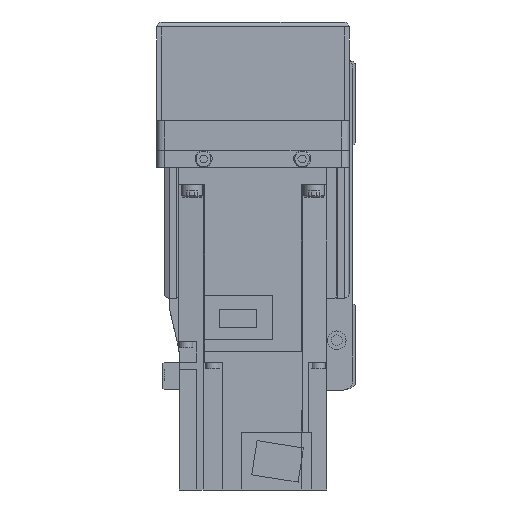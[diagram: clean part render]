
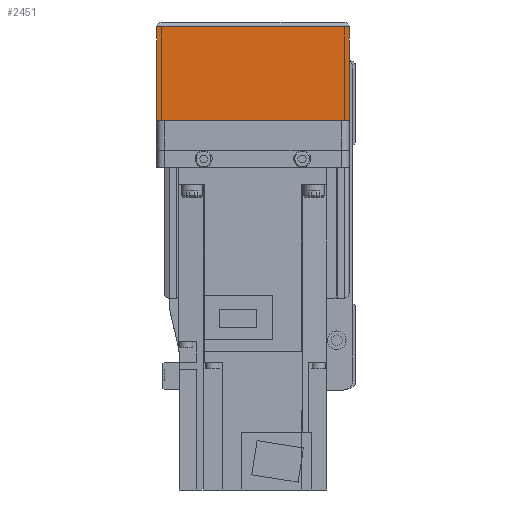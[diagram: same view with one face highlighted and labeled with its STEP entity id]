
A CAD part, left-side view. The second image highlights one B-rep face of the part: STEP entity #2451.
In plain terms, the highlighted planar face has unit normal (-1, 0, 0).
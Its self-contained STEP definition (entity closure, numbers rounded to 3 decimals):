
#2451 = ADVANCED_FACE( '', ( #5454 ), #5455, .F. );
#5454 = FACE_OUTER_BOUND( '', #9009, .T. );
#5455 = PLANE( '', #9010 );
#9009 = EDGE_LOOP( '', ( #16037, #16038, #16039, #16040 ) );
#9010 = AXIS2_PLACEMENT_3D( '', #16041, #16042, #16043 );
#16037 = ORIENTED_EDGE( '', *, *, #22611, .F. );
#16038 = ORIENTED_EDGE( '', *, *, #22348, .F. );
#16039 = ORIENTED_EDGE( '', *, *, #22369, .T. );
#16040 = ORIENTED_EDGE( '', *, *, #22612, .F. );
#16041 = CARTESIAN_POINT( '', ( -158., 36., 7. ) );
#16042 = DIRECTION( '', ( 1., 0., 0. ) );
#16043 = DIRECTION( '', ( 0., 0., -1. ) );
#22348 = EDGE_CURVE( '', #26156, #27506, #27507, .T. );
#22369 = EDGE_CURVE( '', #26156, #24236, #27533, .T. );
#22611 = EDGE_CURVE( '', #27506, #27838, #27849, .T. );
#22612 = EDGE_CURVE( '', #27838, #24236, #27850, .T. );
#24236 = VERTEX_POINT( '', #30020 );
#26156 = VERTEX_POINT( '', #33216 );
#27506 = VERTEX_POINT( '', #35338 );
#27507 = LINE( '', #35339, #35340 );
#27533 = LINE( '', #35377, #35378 );
#27838 = VERTEX_POINT( '', #35800 );
#27849 = LINE( '', #35817, #35818 );
#27850 = LINE( '', #35819, #35820 );
#30020 = CARTESIAN_POINT( '', ( -158., -39., -50. ) );
#33216 = CARTESIAN_POINT( '', ( -158., 39., -50. ) );
#35338 = CARTESIAN_POINT( '', ( -158., 39., -12.1 ) );
#35339 = CARTESIAN_POINT( '', ( -158., 39., -50. ) );
#35340 = VECTOR( '', #40326, 1000. );
#35377 = CARTESIAN_POINT( '', ( -158., 40., -50. ) );
#35378 = VECTOR( '', #40344, 1000. );
#35800 = CARTESIAN_POINT( '', ( -158., -39., -12.1 ) );
#35817 = CARTESIAN_POINT( '', ( -158., 50., -12.1 ) );
#35818 = VECTOR( '', #40622, 1000. );
#35819 = CARTESIAN_POINT( '', ( -158., -39., -12.1 ) );
#35820 = VECTOR( '', #40623, 1000. );
#40326 = DIRECTION( '', ( 0., 0., 1. ) );
#40344 = DIRECTION( '', ( 0., -1., 0. ) );
#40622 = DIRECTION( '', ( 0., -1., 0. ) );
#40623 = DIRECTION( '', ( 0., 0., -1. ) );
